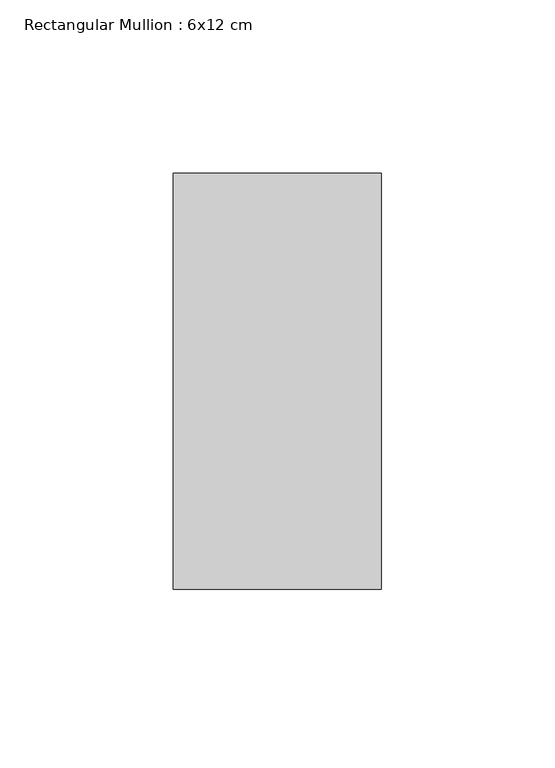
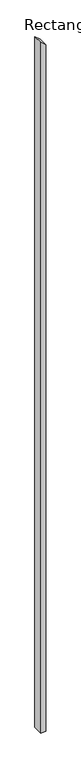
"""IFC4 building model written with IfcOpenShell, lengths in millimetres: member geometry, Rectangular Mullion : 6x12 cm."""

from ifc_helpers import new_model, si_unit, frame, origin, place, context, project, spatial, polyline, outline, extrude, source, transform, mapped, element, save


def rectangular_mullion_6x12_cm_89b6c127(model_context):
    return source(origin(), model_context, "Body", "SweptSolid", [
        extrude(outline(polyline([(-105.3653049, 30.0), (-53.3933853, -30.0), (-8605.0523829, -30.0), (-8605.0523829, 30.0), (-105.3653049, 30.0)])), frame((0.0, 85.0, 0.0), z_axis=(0.0, 1.0, 0.0), x_axis=(0.0, 0.0, 1.0)), (0.0, 0.0, 1.0), 120.0),
    ])


if __name__ == "__main__":
    model = new_model("IFC4")
    model_context = context("Model", 3, world=origin())
    ifc_project = project(units=[si_unit("LENGTHUNIT", "METRE", prefix="MILLI")], contexts=[model_context])
    site = spatial("IfcSite", under=ifc_project)
    building = spatial("IfcBuilding", under=site)
    placement = place(None, origin())
    rectangular_mullion_6x12_cm_shape = rectangular_mullion_6x12_cm_89b6c127(model_context)
    element("IfcMember", 1, ObjectType="Rectangular Mullion : 6x12 cm", at=placement, inside=building, context=model_context, shape_type="MappedRepresentation", body=[
        mapped(rectangular_mullion_6x12_cm_shape, transform((0.0, 0.0, 0.0), x_axis=(1.0, 0.0, 0.0), y_axis=(0.0, 1.0, 0.0), z_axis=(0.0, 0.0, 1.0))),
    ])
    save(model, "model.ifc")
